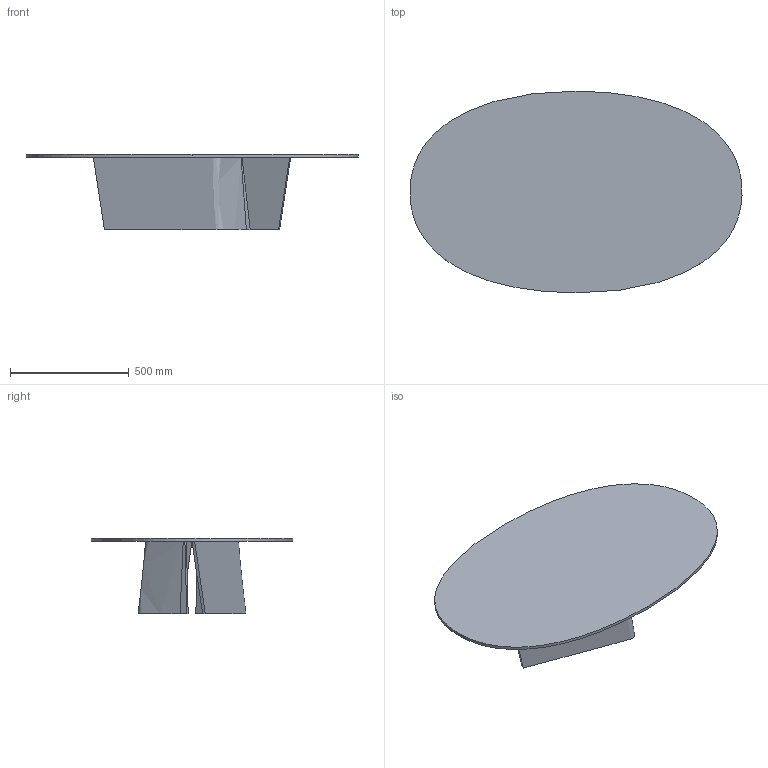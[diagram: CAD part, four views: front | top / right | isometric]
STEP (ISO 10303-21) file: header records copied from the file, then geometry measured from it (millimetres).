
FILE_DESCRIPTION(/* description */ (''),/* implementation_level */ '2;1');
FILE_NAME(/* name */ '500.201 - Accordo Tavolino ovale H32 140x85',/* time_stamp */ '2010-11-03T16:23:29+01:00',/* author */ (''),/* organization */ (''),/* preprocessor_version */ 'ST-DEVELOPER v10',/* originating_system */ '',/* authorisation */ '');
FILE_SCHEMA (('CONFIG_CONTROL_DESIGN'));
Length unit declared in the file: centimetre
Products named in the file (1): 1
Bounding box: 1399.49 x 850 x 317 mm (x, y, z)
Volume: 15441920.9 mm3; surface area: 2923971.9 mm2
Topology: 3 solids, 3 shells, 18 faces, 36 edges, 24 vertices
Faces by surface type: bspline 12, plane 6
Entity records: 716 total; most frequent: CARTESIAN_POINT 408, ORIENTED_EDGE 72, EDGE_CURVE 36, VERTEX_POINT 24, ADVANCED_FACE 18, FACE_OUTER_BOUND 18, EDGE_LOOP 18, DIRECTION 10
